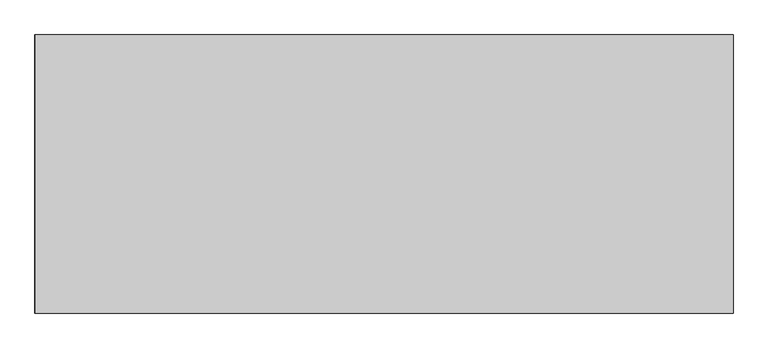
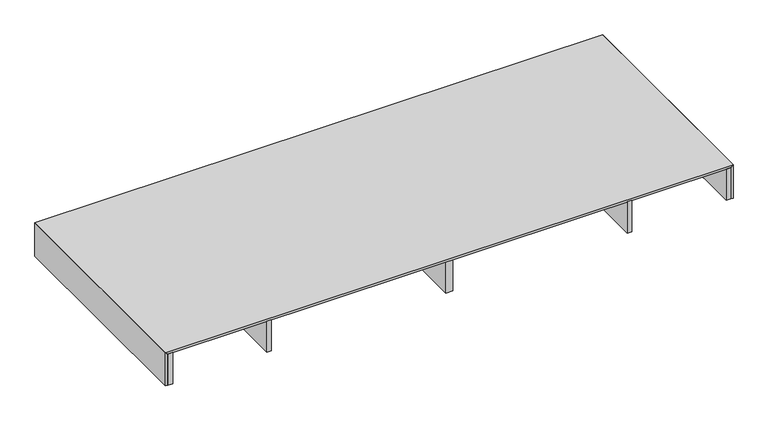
"""IFC4 building model written with IfcOpenShell, lengths in millimetres: proxy geometry, BASYS^U OFFICE_66.75 WIRE WALL SHROUD-PARTS SOLID."""

import ifcopenshell
import ifcopenshell.guid

model = None  # the IFC model being written
_history = None  # IfcOwnerHistory: only IFC2X3 demands one
_inside = {}  # id of a spatial element -> (the spatial element, [elements in it])
_under = {}  # id of a project, library or spatial element -> (it, [spatial elements below it])
_declared = {}  # id of a project -> (the project, [libraries it declares])
_typed = {}  # id of a type object -> (the type object, [elements of that type])
_made_of = {}  # id of a material, layer set ... -> (it, [elements and type objects made of it])


def new_model(schema):
    """Start an empty IFC model of exactly this schema.

    Asked for "IFC4X3", IfcOpenShell would pick the latest addendum, in which some entities
    have other attributes; the version numbers below select the first issue.
    IFC2X3 requires an IfcOwnerHistory on every rooted entity: one is made here for all.
    """
    global model, _history
    if schema == "IFC4X3":
        model = ifcopenshell.file(schema_version=(4, 3, 0, 0))
    else:
        model = ifcopenshell.file(schema=schema)
    _inside.clear()
    _under.clear()
    _declared.clear()
    _typed.clear()
    _made_of.clear()
    _history = None
    if model.schema == "IFC2X3":
        org = make("IfcOrganization", Name="unknown")
        user = make(
            "IfcPersonAndOrganization",
            ThePerson=make("IfcPerson", FamilyName="unknown"),
            TheOrganization=org,
        )
        app = make(
            "IfcApplication",
            ApplicationDeveloper=org,
            Version="unknown",
            ApplicationFullName="unknown",
            ApplicationIdentifier="unknown",
        )
        _history = make(
            "IfcOwnerHistory",
            OwningUser=user,
            OwningApplication=app,
            ChangeAction="ADDED",
            CreationDate=0,
        )
    return model


def make(cls, **values):
    """One entity of the class cls with the attributes given. An attribute that is None is left unset."""
    return model.create_entity(
        cls, **{name: value for name, value in values.items() if value is not None}
    )


def rooted(cls, **values):
    """An entity with a GlobalId (a new one), such as an element, a storey or a relation."""
    return make(cls, GlobalId=ifcopenshell.guid.new(), OwnerHistory=_history, **values)


def si_unit(unit_type, name, prefix=None):
    """IfcSIUnit, for example si_unit("LENGTHUNIT", "METRE", prefix="MILLI")."""
    return make("IfcSIUnit", UnitType=unit_type, Prefix=prefix, Name=name)


def assignment(units):
    """IfcUnitAssignment: the units of a project."""
    return None if units is None else make("IfcUnitAssignment", Units=units)


def point(xyz):
    """IfcCartesianPoint."""
    return None if xyz is None else make("IfcCartesianPoint", Coordinates=xyz)


def direction(xyz):
    """IfcDirection."""
    return None if xyz is None else make("IfcDirection", DirectionRatios=xyz)


def frame(location, z_axis=None, x_axis=None):
    """IfcAxis2Placement3D, a coordinate frame: its origin and axes. An axis left out is left unset."""
    return make(
        "IfcAxis2Placement3D",
        Location=point(location),
        Axis=direction(z_axis),
        RefDirection=direction(x_axis),
    )


def origin():
    """The frame at (0, 0, 0) with its axes left unset."""
    return frame((0.0, 0.0, 0.0))


def place(relative_to, where):
    """IfcLocalPlacement: puts the frame where relative to a parent placement (None: the world)."""
    return make(
        "IfcLocalPlacement", PlacementRelTo=relative_to, RelativePlacement=where
    )


def context(
    kind, dimensions, precision=None, world=None, true_north=None, identifier=None
):
    """IfcGeometricRepresentationContext, for example the 3D "Model" context."""
    return make(
        "IfcGeometricRepresentationContext",
        ContextIdentifier=identifier,
        ContextType=kind,
        CoordinateSpaceDimension=dimensions,
        Precision=precision,
        WorldCoordinateSystem=world,
        TrueNorth=true_north,
    )


def project(units=None, contexts=None):
    """IfcProject with its units and contexts."""
    return rooted(
        "IfcProject",
        Name="project",
        RepresentationContexts=contexts,
        UnitsInContext=assignment(units),
    )


def spatial(cls, under=None, at=None, **own):
    """A site, building, storey or space (cls), placed at a placement, below another one or the project."""
    s = rooted(cls, ObjectPlacement=at, **own)
    if under is not None:
        _under.setdefault(under.id(), (under, []))[1].append(s)
    return s


def polyline(points):
    """IfcPolyline through the points."""
    return make("IfcPolyline", Points=[point(p) for p in points])


def outline(outer, holes=None, kind="AREA"):
    """IfcArbitraryClosedProfileDef: a profile drawn as a closed curve; with holes, ...WithVoids."""
    if holes is None:
        return make("IfcArbitraryClosedProfileDef", ProfileType=kind, OuterCurve=outer)
    return make(
        "IfcArbitraryProfileDefWithVoids",
        ProfileType=kind,
        OuterCurve=outer,
        InnerCurves=holes,
    )


def extrude(swept, where, along, depth):
    """IfcExtrudedAreaSolid: the profile swept, set in the frame where, extruded along a direction by depth."""
    return make(
        "IfcExtrudedAreaSolid",
        SweptArea=swept,
        Position=where,
        ExtrudedDirection=direction(along),
        Depth=depth,
    )


def shape(context_of_items, identifier, shape_type, items):
    """IfcShapeRepresentation: the items that make up one representation, for example the "Body"."""
    return make(
        "IfcShapeRepresentation",
        ContextOfItems=context_of_items,
        RepresentationIdentifier=identifier,
        RepresentationType=shape_type,
        Items=items,
    )


def source(mapping_origin, context_of_items, identifier, shape_type, items):
    """IfcRepresentationMap: a shape defined once, which mapped items show again and again."""
    return make(
        "IfcRepresentationMap",
        MappingOrigin=mapping_origin,
        MappedRepresentation=shape(context_of_items, identifier, shape_type, items),
    )


def transform(
    local_origin,
    x_axis=None,
    y_axis=None,
    z_axis=None,
    scale=None,
    scale2=None,
    scale3=None,
    uniform=True,
):
    """IfcCartesianTransformationOperator3D, or its non-uniform kind. x_axis, y_axis, z_axis: its Axis1, 2, 3."""
    if uniform:
        return make(
            "IfcCartesianTransformationOperator3D",
            Axis1=direction(x_axis),
            Axis2=direction(y_axis),
            LocalOrigin=point(local_origin),
            Scale=scale,
            Axis3=direction(z_axis),
        )
    return make(
        "IfcCartesianTransformationOperator3DnonUniform",
        Axis1=direction(x_axis),
        Axis2=direction(y_axis),
        LocalOrigin=point(local_origin),
        Scale=scale,
        Axis3=direction(z_axis),
        Scale2=scale2,
        Scale3=scale3,
    )


def mapped(mapping_source, mapping_target):
    """IfcMappedItem: shows the shape of a source again, moved by a transform."""
    return make(
        "IfcMappedItem", MappingSource=mapping_source, MappingTarget=mapping_target
    )


def made_of(thing, what):
    """Note that an element or type object is made of a material, layer set ...; save() writes the relation."""
    if what is not None:
        _made_of.setdefault(what.id(), (what, []))[1].append(thing)
    return thing


def element(
    cls,
    number,
    at=None,
    inside=None,
    cuts=None,
    type_object=None,
    material=None,
    context=None,
    identifier="Body",
    shape_type=None,
    held_by="IfcProductDefinitionShape",
    body=None,
    shapes=None,
    **own,
):
    """One element of the class cls, such as IfcWall. Its Tag is "e" and its number.

    at: its placement. inside: the storey or other place that contains it. cuts: it is an
    opening in that element (IfcRelVoidsElement). A single representation is given by context,
    identifier, shape_type and body (its items); several are given by shapes. held_by: the class
    of the entity that holds the representations. save() writes the other relations.
    """
    e = rooted(cls, Tag="e%d" % number, ObjectPlacement=at, **own)
    if body is not None:
        shapes = [shape(context, identifier, shape_type, body)]
    if shapes is not None:
        e.Representation = make(held_by, Representations=shapes)
    if inside is not None:
        _inside.setdefault(inside.id(), (inside, []))[1].append(e)
    if cuts is not None:
        rooted(
            "IfcRelVoidsElement", RelatingBuildingElement=cuts, RelatedOpeningElement=e
        )
    if type_object is not None:
        _typed.setdefault(type_object.id(), (type_object, []))[1].append(e)
    return made_of(e, material)


def aggregate(whole, parts):
    """IfcRelAggregates: a whole, such as a stair, and the parts it consists of."""
    return rooted("IfcRelAggregates", RelatingObject=whole, RelatedObjects=parts)


def save(model, path):
    """Write the relations noted so far, then the file.

    IfcRelAggregates (storeys below a building ...), IfcRelContainedInSpatialStructure (elements
    in a storey), IfcRelDefinesByType, IfcRelAssociatesMaterial and IfcRelDeclares: one each for
    every whole, place, type object, material and project.
    """
    for whole, parts in _under.values():
        aggregate(whole, parts)
    for where, things in _inside.values():
        rooted(
            "IfcRelContainedInSpatialStructure",
            RelatedElements=things,
            RelatingStructure=where,
        )
    for kind, things in _typed.values():
        rooted("IfcRelDefinesByType", RelatedObjects=things, RelatingType=kind)
    for what, things in _made_of.values():
        rooted("IfcRelAssociatesMaterial", RelatedObjects=things, RelatingMaterial=what)
    for by, libraries in _declared.values():
        rooted("IfcRelDeclares", RelatingContext=by, RelatedDefinitions=libraries)
    model.write(path)


def generic_models_678b21cb(model_context):
    return source(origin(), model_context, "Body", "SweptSolid", [
        extrude(outline(polyline([(273.05, 590.55), (285.75, 590.55), (285.75, 0.0), (273.05, 0.0), (273.05, 590.55)])), frame((0.0, 0.0, -95.25), z_axis=(0.0, 0.0, 1.0), x_axis=(1.0, 0.0, 0.0)), (0.0, 0.0, 1.0), 88.9),
        extrude(outline(polyline([(1511.3, 609.6), (1524.0, 609.6), (1524.0, 0.0), (1511.3, 0.0), (1511.3, 609.6)])), frame((0.0, 0.0, -95.25), z_axis=(0.0, 0.0, 1.0), x_axis=(1.0, 0.0, 0.0)), (0.0, 0.0, 1.0), 88.9),
        extrude(outline(polyline([(6.35, 609.6), (19.05, 609.6), (19.05, 0.0), (6.35, 0.0), (6.35, 609.6)])), frame((0.0, 0.0, -95.25), z_axis=(0.0, 0.0, 1.0), x_axis=(1.0, 0.0, 0.0)), (0.0, 0.0, 1.0), 88.9),
        extrude(outline(polyline([(1257.3, 0.0), (1244.6, 0.0), (1244.6, 590.55), (1257.3, 590.55), (1257.3, 0.0)])), frame((0.0, 0.0, -95.25), z_axis=(0.0, 0.0, 1.0), x_axis=(1.0, 0.0, 0.0)), (0.0, 0.0, 1.0), 88.9),
        extrude(outline(polyline([(-95.25, 6.35), (-6.35, 6.35), (0.0, 0.0), (-95.25, 0.0), (-95.25, 6.35)])), frame((0.0, 0.0, 0.0), z_axis=(0.0, 1.0, 0.0), x_axis=(0.0, 0.0, 1.0)), (0.0, 0.0, 1.0), 609.6),
        extrude(outline(polyline([(0.0, 1530.35), (0.0, 0.0), (-6.35, 6.35), (-6.35, 1524.0), (0.0, 1530.35)])), frame((0.0, 0.0, 0.0), z_axis=(0.0, 1.0, 0.0), x_axis=(0.0, 0.0, 1.0)), (0.0, 0.0, 1.0), 609.6),
        extrude(outline(polyline([(-95.25, 1524.0), (-95.25, 1530.35), (0.0, 1530.35), (-6.35, 1524.0), (-95.25, 1524.0)])), frame((0.0, 0.0, 0.0), z_axis=(0.0, 1.0, 0.0), x_axis=(0.0, 0.0, 1.0)), (0.0, 0.0, 1.0), 609.6),
        extrude(outline(polyline([(1524.0, 520.7), (1524.0, 469.9), (6.35, 469.9), (6.35, 520.7), (1524.0, 520.7)])), frame((0.0, 0.0, -19.05), z_axis=(0.0, 0.0, 1.0), x_axis=(1.0, 0.0, 0.0)), (0.0, 0.0, 1.0), 12.7),
        extrude(outline(polyline([(755.65, 590.55), (774.7, 590.55), (774.7, 0.0), (755.65, 0.0), (755.65, 590.55)])), frame((0.0, 0.0, -95.25), z_axis=(0.0, 0.0, 1.0), x_axis=(1.0, 0.0, 0.0)), (0.0, 0.0, 1.0), 88.9),
    ])


if __name__ == "__main__":
    model = new_model("IFC4")
    model_context = context("Model", 3, world=origin())
    ifc_project = project(units=[si_unit("LENGTHUNIT", "METRE", prefix="MILLI")], contexts=[model_context])
    site = spatial("IfcSite", under=ifc_project)
    building = spatial("IfcBuilding", under=site)
    placement = place(None, origin())
    generic_models_shape = generic_models_678b21cb(model_context)
    element("IfcBuildingElementProxy", 1, Name="BASYS^U OFFICE_66.75 WIRE WALL SHROUD-PARTS SOLID", ObjectType="BASYS^U OFFICE_66.75 WIRE WALL SHROUD-PARTS SOLID", at=placement, inside=building, context=model_context, shape_type="MappedRepresentation", body=[
        mapped(generic_models_shape, transform((0.0, 0.0, 0.0), x_axis=(1.0, 0.0, 0.0), y_axis=(0.0, 1.0, 0.0), z_axis=(0.0, 0.0, 1.0))),
    ])
    save(model, "model.ifc")
